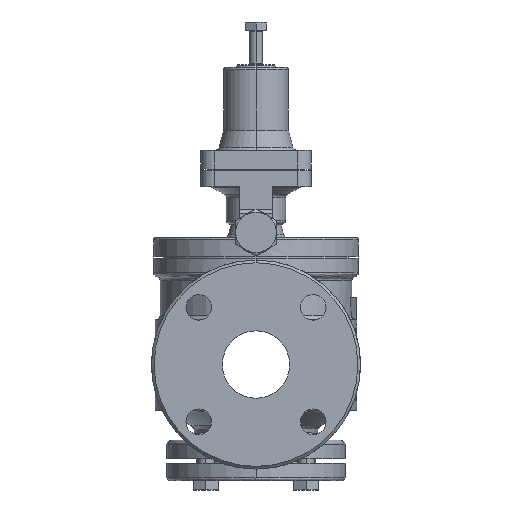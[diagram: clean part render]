
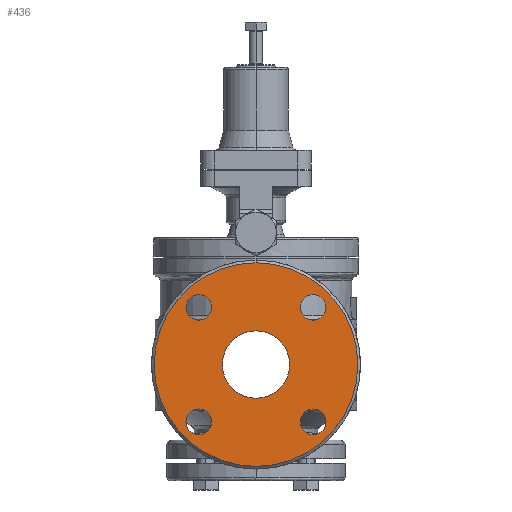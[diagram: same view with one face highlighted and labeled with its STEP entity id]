
A CAD part, left-side view. The second image highlights one B-rep face of the part: STEP entity #436.
In plain terms, the highlighted planar face has unit normal (-1, 0, 0).
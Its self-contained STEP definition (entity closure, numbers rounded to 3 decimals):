
#436=ADVANCED_FACE('',(#2836,#2837,#2838,#2839,#2840,#2841),#2835,.T.);
#2835=PLANE('',#6113);
#2836=FACE_OUTER_BOUND('',#6114,.T.);
#2837=FACE_BOUND('',#6115,.T.);
#2838=FACE_BOUND('',#6116,.T.);
#2839=FACE_BOUND('',#6117,.T.);
#2840=FACE_BOUND('',#6118,.T.);
#2841=FACE_BOUND('',#6119,.T.);
#6110=CARTESIAN_POINT('',(-243.948,-140.77,-347.451));
#6111=DIRECTION('',(-1.,0.,0.));
#6112=DIRECTION('',(0.,0.,1.));
#6113=AXIS2_PLACEMENT_3D('',#6110,#6111,#6112);
#6114=EDGE_LOOP('',(#8622,#8623));
#6115=EDGE_LOOP('',(#8624,#8625));
#6116=EDGE_LOOP('',(#8626,#8627));
#6117=EDGE_LOOP('',(#8628,#8629));
#6118=EDGE_LOOP('',(#8630,#8631));
#6119=EDGE_LOOP('',(#8632,#8633));
#8622=ORIENTED_EDGE('',*,*,#9939,.T.);
#8623=ORIENTED_EDGE('',*,*,#9940,.T.);
#8624=ORIENTED_EDGE('',*,*,#9941,.T.);
#8625=ORIENTED_EDGE('',*,*,#9942,.T.);
#8626=ORIENTED_EDGE('',*,*,#9943,.T.);
#8627=ORIENTED_EDGE('',*,*,#9944,.T.);
#8628=ORIENTED_EDGE('',*,*,#9945,.T.);
#8629=ORIENTED_EDGE('',*,*,#9946,.T.);
#8630=ORIENTED_EDGE('',*,*,#9947,.T.);
#8631=ORIENTED_EDGE('',*,*,#9948,.T.);
#8632=ORIENTED_EDGE('',*,*,#9949,.T.);
#8633=ORIENTED_EDGE('',*,*,#9950,.T.);
#9939=EDGE_CURVE('',#14763,#14764,#14765,.T.);
#9940=EDGE_CURVE('',#14764,#14763,#14771,.T.);
#9941=EDGE_CURVE('',#14777,#14778,#14779,.T.);
#9942=EDGE_CURVE('',#14778,#14777,#14785,.T.);
#9943=EDGE_CURVE('',#14791,#14792,#14793,.T.);
#9944=EDGE_CURVE('',#14792,#14791,#14799,.T.);
#9945=EDGE_CURVE('',#14805,#14806,#14807,.T.);
#9946=EDGE_CURVE('',#14806,#14805,#14813,.T.);
#9947=EDGE_CURVE('',#14819,#14820,#14821,.T.);
#9948=EDGE_CURVE('',#14820,#14819,#14827,.T.);
#9949=EDGE_CURVE('',#14833,#14834,#14835,.T.);
#9950=EDGE_CURVE('',#14834,#14833,#14841,.T.);
#14763=VERTEX_POINT('',#20745);
#14764=VERTEX_POINT('',#20746);
#14765=CIRCLE('',#20750,75.5);
#14771=CIRCLE('',#20754,75.5);
#14777=VERTEX_POINT('',#20755);
#14778=VERTEX_POINT('',#20756);
#14779=CIRCLE('',#20760,9.5);
#14785=CIRCLE('',#20764,9.5);
#14791=VERTEX_POINT('',#20765);
#14792=VERTEX_POINT('',#20766);
#14793=CIRCLE('',#20770,9.5);
#14799=CIRCLE('',#20774,9.5);
#14805=VERTEX_POINT('',#20775);
#14806=VERTEX_POINT('',#20776);
#14807=CIRCLE('',#20780,9.5);
#14813=CIRCLE('',#20784,9.5);
#14819=VERTEX_POINT('',#20785);
#14820=VERTEX_POINT('',#20786);
#14821=CIRCLE('',#20790,25.);
#14827=CIRCLE('',#20794,25.);
#14833=VERTEX_POINT('',#20795);
#14834=VERTEX_POINT('',#20796);
#14835=CIRCLE('',#20800,9.5);
#14841=CIRCLE('',#20804,9.5);
#20745=CARTESIAN_POINT('',(-243.948,0.,-110.951));
#20746=CARTESIAN_POINT('',(-243.948,0.,-261.951));
#20747=CARTESIAN_POINT('',(-243.948,0.,-186.451));
#20748=DIRECTION('',(-1.,0.,0.));
#20749=DIRECTION('',(0.,0.,1.));
#20750=AXIS2_PLACEMENT_3D('',#20747,#20748,#20749);
#20751=CARTESIAN_POINT('',(-243.948,0.,-186.451));
#20752=DIRECTION('',(-1.,0.,0.));
#20753=DIRECTION('',(0.,0.,1.));
#20754=AXIS2_PLACEMENT_3D('',#20751,#20752,#20753);
#20755=CARTESIAN_POINT('',(-243.948,42.426,-134.524));
#20756=CARTESIAN_POINT('',(-243.948,42.426,-153.524));
#20757=CARTESIAN_POINT('',(-243.948,42.426,-144.024));
#20758=DIRECTION('',(1.,0.,0.));
#20759=DIRECTION('',(0.,0.,1.));
#20760=AXIS2_PLACEMENT_3D('',#20757,#20758,#20759);
#20761=CARTESIAN_POINT('',(-243.948,42.426,-144.024));
#20762=DIRECTION('',(1.,0.,0.));
#20763=DIRECTION('',(0.,0.,1.));
#20764=AXIS2_PLACEMENT_3D('',#20761,#20762,#20763);
#20765=CARTESIAN_POINT('',(-243.948,-42.426,-134.524));
#20766=CARTESIAN_POINT('',(-243.948,-42.426,-153.524));
#20767=CARTESIAN_POINT('',(-243.948,-42.426,-144.024));
#20768=DIRECTION('',(1.,0.,0.));
#20769=DIRECTION('',(0.,0.,1.));
#20770=AXIS2_PLACEMENT_3D('',#20767,#20768,#20769);
#20771=CARTESIAN_POINT('',(-243.948,-42.426,-144.024));
#20772=DIRECTION('',(1.,0.,0.));
#20773=DIRECTION('',(0.,0.,1.));
#20774=AXIS2_PLACEMENT_3D('',#20771,#20772,#20773);
#20775=CARTESIAN_POINT('',(-243.948,-42.426,-219.377));
#20776=CARTESIAN_POINT('',(-243.948,-42.426,-238.377));
#20777=CARTESIAN_POINT('',(-243.948,-42.426,-228.877));
#20778=DIRECTION('',(1.,0.,0.));
#20779=DIRECTION('',(0.,0.,1.));
#20780=AXIS2_PLACEMENT_3D('',#20777,#20778,#20779);
#20781=CARTESIAN_POINT('',(-243.948,-42.426,-228.877));
#20782=DIRECTION('',(1.,0.,0.));
#20783=DIRECTION('',(0.,0.,1.));
#20784=AXIS2_PLACEMENT_3D('',#20781,#20782,#20783);
#20785=CARTESIAN_POINT('',(-243.948,0.,-161.451));
#20786=CARTESIAN_POINT('',(-243.948,0.,-211.451));
#20787=CARTESIAN_POINT('',(-243.948,0.,-186.451));
#20788=DIRECTION('',(1.,0.,0.));
#20789=DIRECTION('',(0.,0.,1.));
#20790=AXIS2_PLACEMENT_3D('',#20787,#20788,#20789);
#20791=CARTESIAN_POINT('',(-243.948,0.,-186.451));
#20792=DIRECTION('',(1.,0.,0.));
#20793=DIRECTION('',(0.,0.,1.));
#20794=AXIS2_PLACEMENT_3D('',#20791,#20792,#20793);
#20795=CARTESIAN_POINT('',(-243.948,42.426,-219.377));
#20796=CARTESIAN_POINT('',(-243.948,42.426,-238.377));
#20797=CARTESIAN_POINT('',(-243.948,42.426,-228.877));
#20798=DIRECTION('',(1.,0.,0.));
#20799=DIRECTION('',(0.,0.,1.));
#20800=AXIS2_PLACEMENT_3D('',#20797,#20798,#20799);
#20801=CARTESIAN_POINT('',(-243.948,42.426,-228.877));
#20802=DIRECTION('',(1.,0.,0.));
#20803=DIRECTION('',(0.,0.,1.));
#20804=AXIS2_PLACEMENT_3D('',#20801,#20802,#20803);
